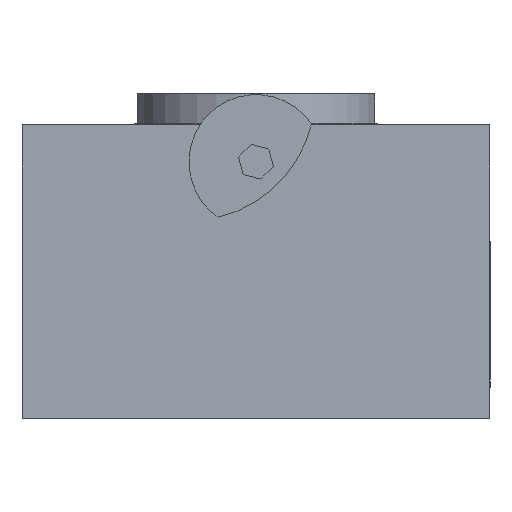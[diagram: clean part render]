
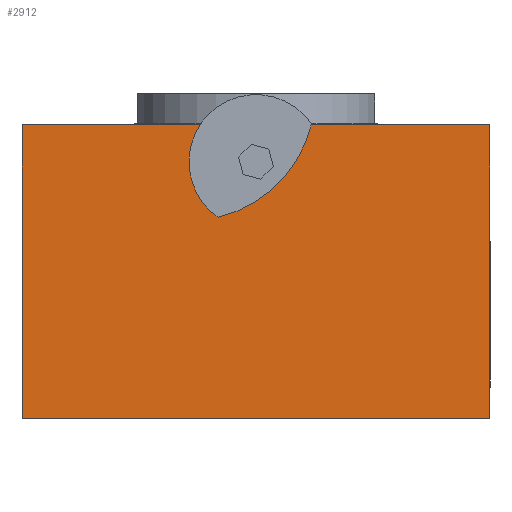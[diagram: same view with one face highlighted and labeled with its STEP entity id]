
A CAD part, front view. The second image highlights one B-rep face of the part: STEP entity #2912.
In plain terms, the highlighted planar face has unit normal (0, -1, 0) as drawn and (1, 0, 0) by its records, which use the part's own axes.
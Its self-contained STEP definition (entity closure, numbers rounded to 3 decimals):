
#31 = VERTEX_POINT ( 'NONE', #2454 ) ;
#42 = LINE ( 'NONE', #1005, #243 ) ;
#52 = CARTESIAN_POINT ( 'NONE',  ( 62.3, 25., -37.5 ) ) ;
#186 = VECTOR ( 'NONE', #1524, 1000. ) ;
#242 = EDGE_CURVE ( 'NONE', #341, #31, #420, .T. ) ;
#243 = VECTOR ( 'NONE', #1303, 1000. ) ;
#326 = ORIENTED_EDGE ( 'NONE', *, *, #242, .T. ) ;
#341 = VERTEX_POINT ( 'NONE', #3111 ) ;
#420 = LINE ( 'NONE', #2870, #1743 ) ;
#586 = PLANE ( 'NONE',  #2507 ) ;
#606 = FACE_OUTER_BOUND ( 'NONE', #2097, .T. ) ;
#676 = EDGE_CURVE ( 'NONE', #2119, #31, #1790, .T. ) ;
#799 = CARTESIAN_POINT ( 'NONE',  ( 62.3, 30.2, -37.7 ) ) ;
#838 = EDGE_CURVE ( 'NONE', #1728, #2119, #42, .T. ) ;
#856 = DIRECTION ( 'NONE',  ( 0., 1., 0. ) ) ;
#957 = DIRECTION ( 'NONE',  ( 0., 0., 1. ) ) ;
#988 = ORIENTED_EDGE ( 'NONE', *, *, #1097, .F. ) ;
#1005 = CARTESIAN_POINT ( 'NONE',  ( 62.3, -22., -37.7 ) ) ;
#1097 = EDGE_CURVE ( 'NONE', #341, #1728, #2803, .T. ) ;
#1282 = DIRECTION ( 'NONE',  ( 0., -1., 0. ) ) ;
#1303 = DIRECTION ( 'NONE',  ( 0., 0., 1. ) ) ;
#1524 = DIRECTION ( 'NONE',  ( 0., -1., 0. ) ) ;
#1553 = CARTESIAN_POINT ( 'NONE',  ( 62.3, -22., -37.5 ) ) ;
#1728 = VERTEX_POINT ( 'NONE', #1553 ) ;
#1743 = VECTOR ( 'NONE', #957, 1000. ) ;
#1790 = LINE ( 'NONE', #2768, #2813 ) ;
#1837 = ORIENTED_EDGE ( 'NONE', *, *, #676, .F. ) ;
#1852 = ORIENTED_EDGE ( 'NONE', *, *, #838, .F. ) ;
#2097 = EDGE_LOOP ( 'NONE', ( #1852, #988, #326, #1837 ) ) ;
#2119 = VERTEX_POINT ( 'NONE', #2788 ) ;
#2454 = CARTESIAN_POINT ( 'NONE',  ( 62.3, 25., 37.5 ) ) ;
#2507 = AXIS2_PLACEMENT_3D ( 'NONE', #799, #2741, #1282 ) ;
#2741 = DIRECTION ( 'NONE',  ( -1., 0., 0. ) ) ;
#2768 = CARTESIAN_POINT ( 'NONE',  ( 62.3, 25., 37.5 ) ) ;
#2788 = CARTESIAN_POINT ( 'NONE',  ( 62.3, -22., 37.5 ) ) ;
#2803 = LINE ( 'NONE', #52, #186 ) ;
#2813 = VECTOR ( 'NONE', #856, 1000. ) ;
#2870 = CARTESIAN_POINT ( 'NONE',  ( 62.3, 25., 18.556 ) ) ;
#2912 = ADVANCED_FACE ( 'NONE', ( #606 ), #586, .F. ) ;
#3111 = CARTESIAN_POINT ( 'NONE',  ( 62.3, 25., -37.5 ) ) ;
